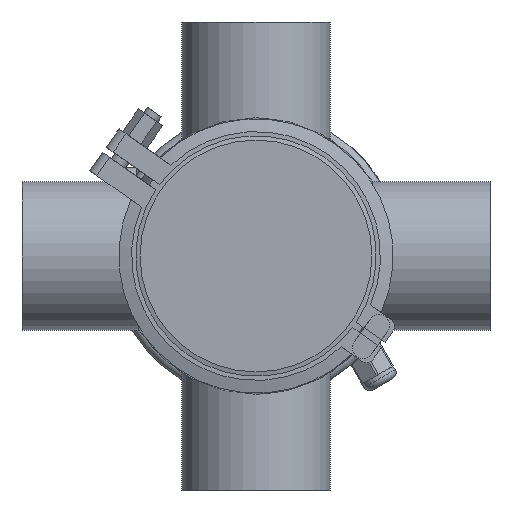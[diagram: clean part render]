
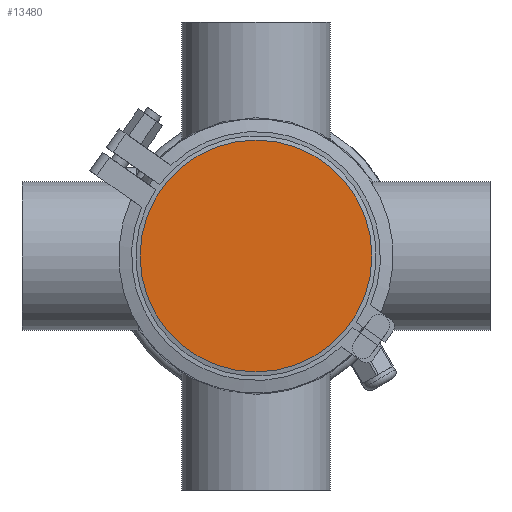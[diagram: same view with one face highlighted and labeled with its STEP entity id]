
A CAD part, front view. The second image highlights one B-rep face of the part: STEP entity #13480.
In plain terms, the highlighted planar face has unit normal (0, -1, 0).
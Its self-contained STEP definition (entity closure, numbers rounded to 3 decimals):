
#2985 = AXIS2_PLACEMENT_3D ( 'NONE', #45241, #54219, #26067 ) ;
#11538 = DIRECTION ( 'NONE',  ( 0., 0., 1. ) ) ;
#13480 = ADVANCED_FACE ( 'NONE', ( #49868 ), #16784, .T. ) ;
#14154 = AXIS2_PLACEMENT_3D ( 'NONE', #16760, #30970, #11538 ) ;
#16625 = ORIENTED_EDGE ( 'NONE', *, *, #37264, .F. ) ;
#16760 = CARTESIAN_POINT ( 'NONE',  ( 0., 0., 0. ) ) ;
#16784 = PLANE ( 'NONE',  #2985 ) ;
#26067 = DIRECTION ( 'NONE',  ( 0., 0., -1. ) ) ;
#27941 = CARTESIAN_POINT ( 'NONE',  ( 0., 0., 54.5 ) ) ;
#30970 = DIRECTION ( 'NONE',  ( 0., 1., 0. ) ) ;
#37264 = EDGE_CURVE ( 'NONE', #55784, #55784, #55501, .T. ) ;
#42919 = EDGE_LOOP ( 'NONE', ( #16625 ) ) ;
#45241 = CARTESIAN_POINT ( 'NONE',  ( -54.5, 0., 0. ) ) ;
#49868 = FACE_OUTER_BOUND ( 'NONE', #42919, .T. ) ;
#54219 = DIRECTION ( 'NONE',  ( 0., -1., 0. ) ) ;
#55501 = CIRCLE ( 'NONE', #14154, 54.5 ) ;
#55784 = VERTEX_POINT ( 'NONE', #27941 ) ;
